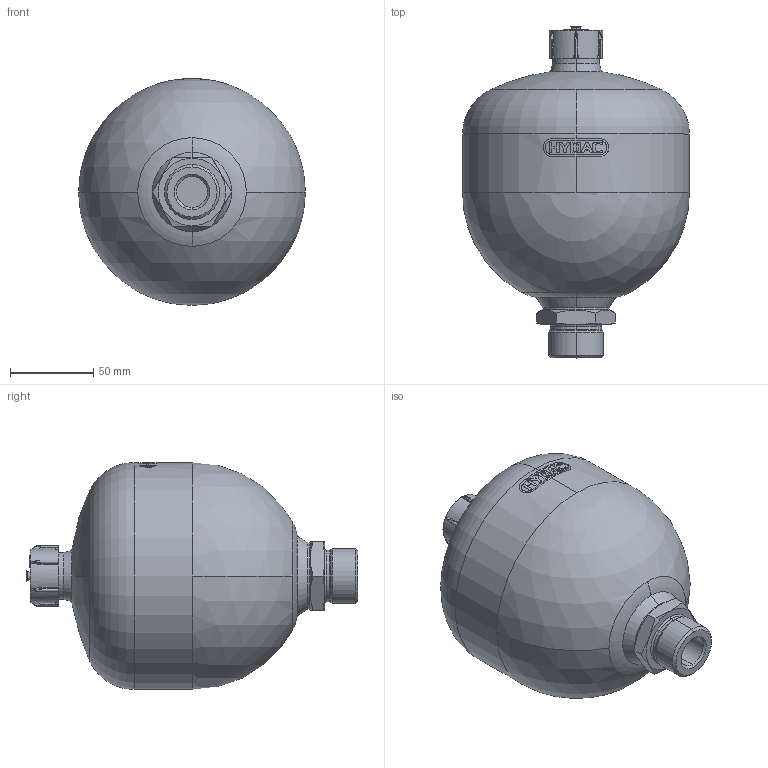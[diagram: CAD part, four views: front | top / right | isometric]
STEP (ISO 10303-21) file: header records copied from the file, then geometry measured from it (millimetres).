
FILE_DESCRIPTION (( 'STEP AP214' ), '1' );
FILE_NAME ('HYDAC-SBO200_1E1_AB.STEP', '2020-02-26T12:50:44', ( '' ), ( '' ), 'SwSTEP 2.0', 'SolidWorks 2019', '' );
FILE_SCHEMA (( 'AUTOMOTIVE_DESIGN' ));
Length unit declared in the file: millimetre
Products named in the file (1): HYDAC-SBO200_1E1_AB
Bounding box: 136 x 198.99 x 136 mm (x, y, z)
Volume: 1600498.5 mm3; surface area: 74670.3 mm2
Topology: 1 solids, 1 shells, 239 faces, 666 edges, 439 vertices
Faces by surface type: plane 111, cylinder 67, bspline 26, cone 16, torus 15, sphere 4
Entity records: 10984 total; most frequent: CARTESIAN_POINT 3617, ORIENTED_EDGE 1328, DIRECTION 1140, EDGE_CURVE 664, VERTEX_POINT 439, AXIS2_PLACEMENT_3D 430, VECTOR 280, LINE 280
